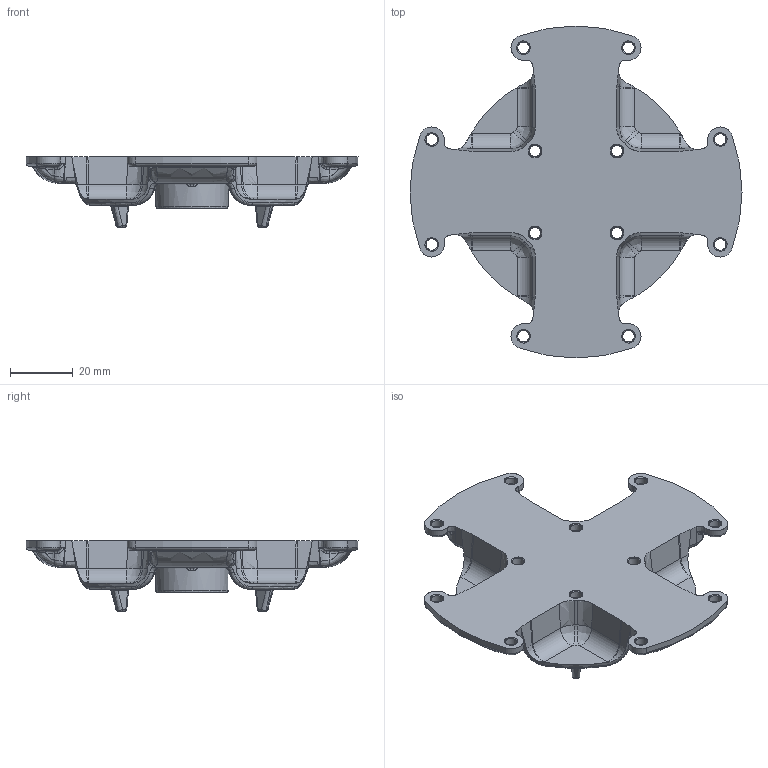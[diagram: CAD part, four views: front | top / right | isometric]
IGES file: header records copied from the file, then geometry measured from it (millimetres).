
Start section: --------------------------------------------------------------------- IGES file generated by CADlook_v12.0.  Visit http://www.cadlook.com for more information on CADlook translators and viewers. ---------------------------------------------------------------------
Global section: file name: X:\progetto-gas\File_clienti\Europa\DC_SerieII\COR-INF_DC_02-A1.igs; native system: Cimatron E 9.0; preprocessor: CADlook_v12.0; author: aquintaba; organization: None; date: 20110119.103008; units: millimetre
Bounding box: 106 x 106 x 22.5 mm (x, y, z)
Surface area: 19083.9 mm2 (no closed solid volume)
Topology: 0 solids, 0 shells, 1705 faces, 11095 edges, 12162 vertices
Faces by surface type: bspline 1415, revolution 290
